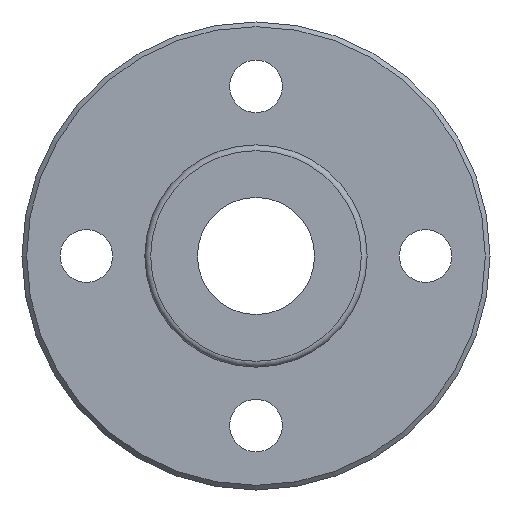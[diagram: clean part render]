
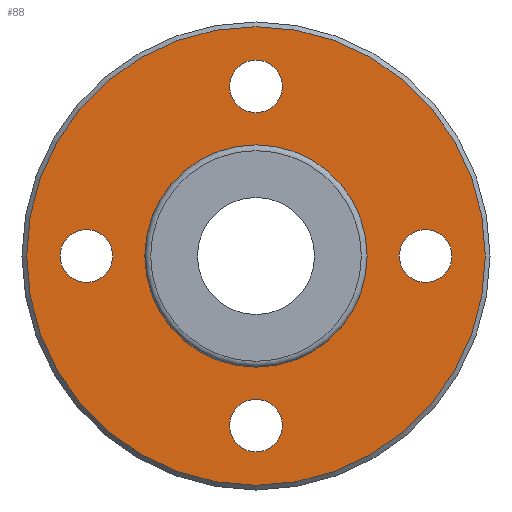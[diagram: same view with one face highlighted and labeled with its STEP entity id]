
A CAD part, left-side view. The second image highlights one B-rep face of the part: STEP entity #88.
In plain terms, the highlighted planar face has unit normal (-1, 0, 0).
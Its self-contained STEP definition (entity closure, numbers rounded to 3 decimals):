
#88=ADVANCED_FACE('',(#147,#148,#149,#150,#151,#152),#153,.T.);
#147=FACE_OUTER_BOUND('',#239,.T.);
#148=FACE_BOUND('',#240,.T.);
#149=FACE_BOUND('',#241,.T.);
#150=FACE_BOUND('',#242,.T.);
#151=FACE_BOUND('',#243,.T.);
#152=FACE_BOUND('',#244,.T.);
#153=PLANE('',#245);
#239=EDGE_LOOP('',(#357));
#240=EDGE_LOOP('',(#358));
#241=EDGE_LOOP('',(#359));
#242=EDGE_LOOP('',(#360));
#243=EDGE_LOOP('',(#361));
#244=EDGE_LOOP('',(#362));
#245=AXIS2_PLACEMENT_3D('',#363,#364,#365);
#357=ORIENTED_EDGE('',*,*,#457,.T.);
#358=ORIENTED_EDGE('',*,*,#437,.F.);
#359=ORIENTED_EDGE('',*,*,#459,.T.);
#360=ORIENTED_EDGE('',*,*,#460,.T.);
#361=ORIENTED_EDGE('',*,*,#450,.T.);
#362=ORIENTED_EDGE('',*,*,#454,.T.);
#363=CARTESIAN_POINT('',(-6.0,14.425,0.0));
#364=DIRECTION('',(-1.0,0.0,0.));
#365=DIRECTION('',(0.,0.0,1.0));
#437=EDGE_CURVE('',#470,#470,#471,.T.);
#450=EDGE_CURVE('',#496,#496,#497,.T.);
#454=EDGE_CURVE('',#504,#504,#505,.T.);
#457=EDGE_CURVE('',#510,#510,#511,.T.);
#459=EDGE_CURVE('',#514,#514,#515,.T.);
#460=EDGE_CURVE('',#516,#516,#517,.T.);
#470=VERTEX_POINT('',#534);
#471=CIRCLE('',#535,9.25);
#496=VERTEX_POINT('',#560);
#497=CIRCLE('',#561,2.25);
#504=VERTEX_POINT('',#568);
#505=CIRCLE('',#569,2.25);
#510=VERTEX_POINT('',#574);
#511=CIRCLE('',#575,19.6);
#514=VERTEX_POINT('',#578);
#515=CIRCLE('',#579,2.25);
#516=VERTEX_POINT('',#580);
#517=CIRCLE('',#581,2.25);
#534=CARTESIAN_POINT('',(-6.0,9.25,0.0));
#535=AXIS2_PLACEMENT_3D('',#599,#600,#601);
#560=CARTESIAN_POINT('',(-6.0,0.0,16.75));
#561=AXIS2_PLACEMENT_3D('',#638,#639,#640);
#568=CARTESIAN_POINT('',(-6.,0.0,-12.25));
#569=AXIS2_PLACEMENT_3D('',#650,#651,#652);
#574=CARTESIAN_POINT('',(-6.0,19.6,0.0));
#575=AXIS2_PLACEMENT_3D('',#659,#660,#661);
#578=CARTESIAN_POINT('',(-6.0,14.5,2.25));
#579=AXIS2_PLACEMENT_3D('',#665,#666,#667);
#580=CARTESIAN_POINT('',(-6.0,-14.5,2.25));
#581=AXIS2_PLACEMENT_3D('',#668,#669,#670);
#599=CARTESIAN_POINT('',(-6.0,0.0,0.0));
#600=DIRECTION('',(-1.0,0.0,0.));
#601=DIRECTION('',(0.0,1.0,0.0));
#638=CARTESIAN_POINT('',(-6.0,0.0,14.5));
#639=DIRECTION('',(1.0,0.0,0.));
#640=DIRECTION('',(0.,0.0,-1.0));
#650=CARTESIAN_POINT('',(-6.,0.0,-14.5));
#651=DIRECTION('',(1.0,0.0,0.));
#652=DIRECTION('',(0.,0.0,-1.0));
#659=CARTESIAN_POINT('',(-6.0,0.0,0.0));
#660=DIRECTION('',(-1.0,0.0,0.));
#661=DIRECTION('',(0.0,1.0,0.0));
#665=CARTESIAN_POINT('',(-6.0,14.5,0.0));
#666=DIRECTION('',(1.0,0.0,0.));
#667=DIRECTION('',(0.,0.0,-1.0));
#668=CARTESIAN_POINT('',(-6.0,-14.5,0.0));
#669=DIRECTION('',(1.0,0.0,0.));
#670=DIRECTION('',(0.,0.0,-1.0));
